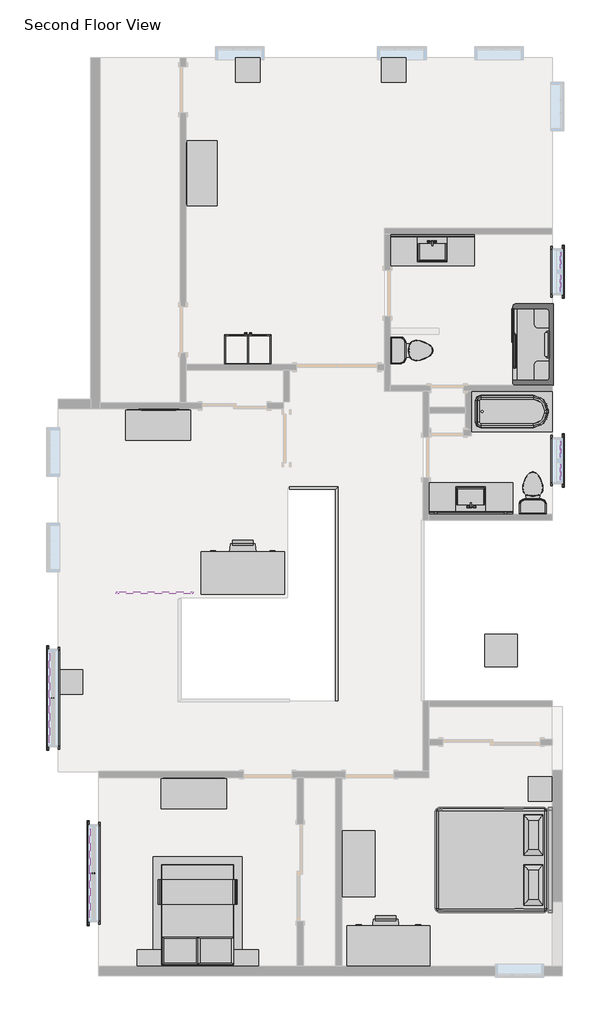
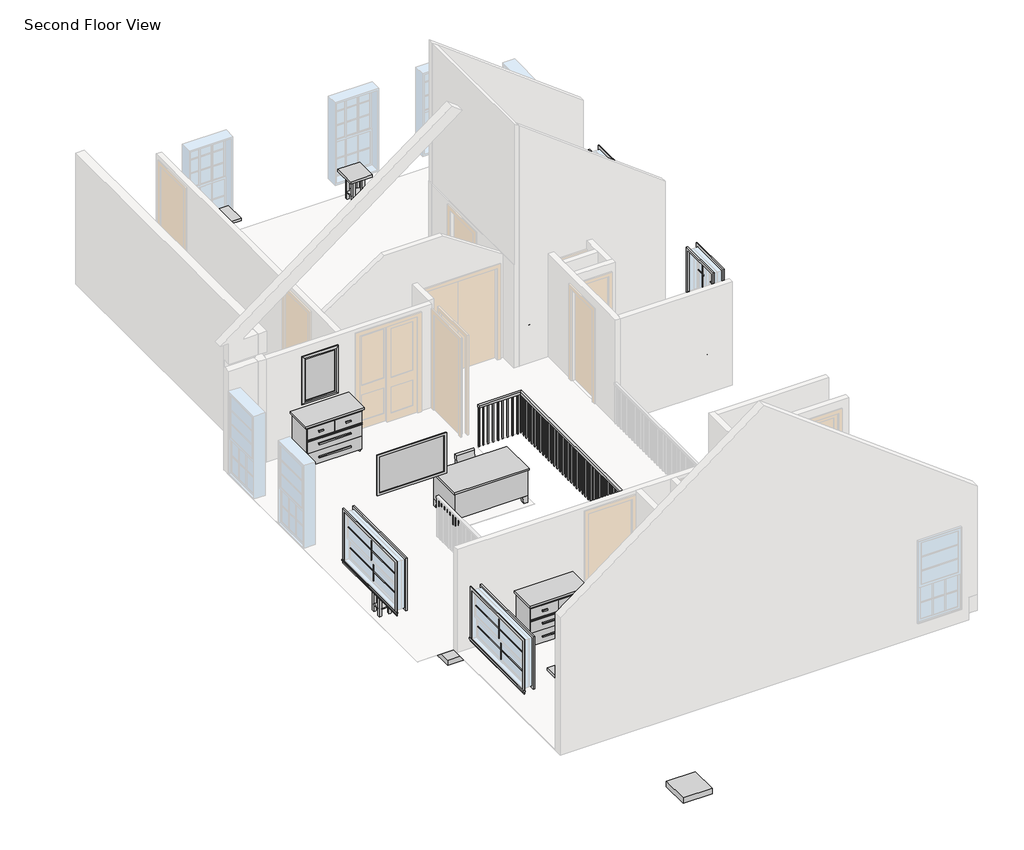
# One storey, part 3 of 3: 18 proxies, 17 furniture elements, 4 flow terminals, 4 light fixtures, 1 railing.
"""IFC4 building model written with IfcOpenShell, lengths in millimetres."""

from ifc_helpers import new_model, si_unit, frame, origin, place, context, project, spatial, polyline, outline, extrude, faceted_brep, transform, mapped, element, save
from components import bed_6467_bed_6467_19fe8acc, mirror_with_boarder_12900_mirror_with_boarder_12900_3f9398c7, muntin_pattern_2x2_muntin_pattern_2x2_8d1b6ffe, muntin_pattern_2x2_muntin_pattern_2x2_b3fe6957, muntin_pattern_2x2_muntin_pattern_2x2_3e0ecaf2, trim_window_exterior_flat_with_sill_e13d5450, trim_window_exterior_flat_with_sill_41619996, trim_window_interior_flat_picture_frame_689dbe4f, trim_window_interior_flat_picture_frame_51c85655, shower_7024_shower_7024_a4580cfa, toilet_domestic_3d_toilet_domestic_3d_f7549cf7, toilet_domestic_3d_toilet_domestic_3d_183bbd19, tub_rectangular_3d_tub_rectangular_3d_cbc2c449, furniture_831f9124, furniture_3_drawer_dresser_12522_3_drawer_dresser_12522_35cc0b9b, furniture_72_x_33x_19_4a222edf, bed_761_bed_761_0b78a544, chair_desk_chair_desk_ccc35c8f, furniture_013ab306, furniture_078ba9d8, furniture_097b63cf, sink_table_mirror_for_bathroom_10977_1_sink_table_mirror_for_8c8fbd03, downlight_rectangle_led_18w_square_e1bfda4b

model = new_model("IFC4")

# Units and contexts
model_context = context("Model", 3, world=origin())
ifc_project = project(units=[si_unit("LENGTHUNIT", "METRE", prefix="MILLI")], contexts=[model_context])

# Site, building, storey
site = spatial("IfcSite", under=ifc_project)
building = spatial("IfcBuilding", under=site)
storey = spatial("IfcBuildingStorey", under=building, Name="Second Floor View", Elevation=2590.8)

# Proxies
placement = place(None, origin())
bed_6467_bed_6467_shape = bed_6467_bed_6467_19fe8acc(model_context)
element("IfcBuildingElementProxy", 1, Name="BED_6467 : BED_6467", ObjectType="BED_6467 : BED_6467", at=placement, inside=storey, context=model_context, shape_type="MappedRepresentation", body=[
    mapped(bed_6467_bed_6467_shape, transform((-7956.0761249, -6164.7843358, 2597.15), x_axis=(-1.0, 0.0, 0.0), y_axis=(0.0, -1.0, 0.0), z_axis=(0.0, 0.0, 1.0))),
])
mirror_with_boarder_12900_mirror_with_boarder_12900_shape = mirror_with_boarder_12900_mirror_with_boarder_12900_3f9398c7(model_context)
element("IfcBuildingElementProxy", 2, Name="Mirror_with_Boarder_12900 : Mirror_with_Boarder_12900", ObjectType="Mirror_with_Boarder_12900 : Mirror_with_Boarder_12900", at=placement, inside=storey, context=model_context, shape_type="MappedRepresentation", body=[
    mapped(mirror_with_boarder_12900_mirror_with_boarder_12900_shape, transform((-8659.2230992, 3541.4922697, 2743.2), x_axis=(-1.0, 0.0, 0.0), y_axis=(0.0, -1.0, 0.0), z_axis=(0.0, 0.0, 1.0))),
])
muntin_pattern_2x2_muntin_pattern_2x2_shape = muntin_pattern_2x2_muntin_pattern_2x2_8d1b6ffe(model_context)
element("IfcBuildingElementProxy", 3, Name="Muntin Pattern_2x2 : Muntin Pattern_2x2", ObjectType="Muntin Pattern_2x2 : Muntin Pattern_2x2", at=placement, inside=storey, context=model_context, shape_type="MappedRepresentation", body=[
    mapped(muntin_pattern_2x2_muntin_pattern_2x2_shape, transform((-9935.5730992, -5240.5577303, 4060.825), x_axis=(0.0, 1.0, 0.0), y_axis=(-1.0, 0.0, 0.0), z_axis=(0.0, 0.0, 1.0))),
])
element("IfcBuildingElementProxy", 4, Name="Muntin Pattern_2x2 : Muntin Pattern_2x2", ObjectType="Muntin Pattern_2x2 : Muntin Pattern_2x2", at=placement, inside=storey, context=model_context, shape_type="MappedRepresentation", body=[
    mapped(muntin_pattern_2x2_muntin_pattern_2x2_shape, transform((-9891.1230992, -5240.5577303, 3581.4), x_axis=(0.0, 1.0, 0.0), y_axis=(-1.0, 0.0, 0.0), z_axis=(0.0, 0.0, 1.0))),
])
element("IfcBuildingElementProxy", 5, Name="Muntin Pattern_2x2 : Muntin Pattern_2x2", ObjectType="Muntin Pattern_2x2 : Muntin Pattern_2x2", at=placement, inside=storey, context=model_context, shape_type="MappedRepresentation", body=[
    mapped(muntin_pattern_2x2_muntin_pattern_2x2_shape, transform((-10697.5730992, -1949.6702303, 4060.825), x_axis=(0.0, 1.0, 0.0), y_axis=(-1.0, 0.0, 0.0), z_axis=(0.0, 0.0, 1.0))),
])
element("IfcBuildingElementProxy", 6, Name="Muntin Pattern_2x2 : Muntin Pattern_2x2", ObjectType="Muntin Pattern_2x2 : Muntin Pattern_2x2", at=placement, inside=storey, context=model_context, shape_type="MappedRepresentation", body=[
    mapped(muntin_pattern_2x2_muntin_pattern_2x2_shape, transform((-10653.1230992, -1949.6702303, 3581.4), x_axis=(0.0, 1.0, 0.0), y_axis=(-1.0, 0.0, 0.0), z_axis=(0.0, 0.0, 1.0))),
])
muntin_pattern_2x2_muntin_pattern_2x2_2_shape = muntin_pattern_2x2_muntin_pattern_2x2_b3fe6957(model_context)
element("IfcBuildingElementProxy", 7, Name="Muntin Pattern_2x2 : Muntin Pattern_2x2", ObjectType="Muntin Pattern_2x2 : Muntin Pattern_2x2", at=placement, inside=storey, context=model_context, shape_type="MappedRepresentation", body=[
    mapped(muntin_pattern_2x2_muntin_pattern_2x2_2_shape, transform((-1083.6730992, 6276.7547697, 3790.95), x_axis=(0.0, -1.0, 0.0), y_axis=(1.0, 0.0, 0.0), z_axis=(0.0, 0.0, 1.0))),
])
element("IfcBuildingElementProxy", 8, Name="Muntin Pattern_2x2 : Muntin Pattern_2x2", ObjectType="Muntin Pattern_2x2 : Muntin Pattern_2x2", at=placement, inside=storey, context=model_context, shape_type="MappedRepresentation", body=[
    mapped(muntin_pattern_2x2_muntin_pattern_2x2_2_shape, transform((-1083.6730992, 2727.1047697, 3790.95), x_axis=(0.0, -1.0, 0.0), y_axis=(1.0, 0.0, 0.0), z_axis=(0.0, 0.0, 1.0))),
])
muntin_pattern_2x2_muntin_pattern_2x2_3_shape = muntin_pattern_2x2_muntin_pattern_2x2_3e0ecaf2(model_context)
element("IfcBuildingElementProxy", 9, Name="Muntin Pattern_2x2 : Muntin Pattern_2x2", ObjectType="Muntin Pattern_2x2 : Muntin Pattern_2x2", at=placement, inside=storey, context=model_context, shape_type="MappedRepresentation", body=[
    mapped(muntin_pattern_2x2_muntin_pattern_2x2_3_shape, transform((-1083.6730992, 5848.1297697, 3790.95), x_axis=(0.0, 1.0, 0.0), y_axis=(-1.0, 0.0, 0.0), z_axis=(0.0, 0.0, 1.0))),
])
element("IfcBuildingElementProxy", 10, Name="Muntin Pattern_2x2 : Muntin Pattern_2x2", ObjectType="Muntin Pattern_2x2 : Muntin Pattern_2x2", at=placement, inside=storey, context=model_context, shape_type="MappedRepresentation", body=[
    mapped(muntin_pattern_2x2_muntin_pattern_2x2_3_shape, transform((-1083.6730992, 2298.4797697, 3790.95), x_axis=(0.0, 1.0, 0.0), y_axis=(-1.0, 0.0, 0.0), z_axis=(0.0, 0.0, 1.0))),
])
trim_window_exterior_flat_with_sill_shape = trim_window_exterior_flat_with_sill_e13d5450(model_context)
element("IfcBuildingElementProxy", 11, Name="Trim-Window-Exterior-Flat : with Sill", ObjectType="Trim-Window-Exterior-Flat : with Sill", at=placement, inside=storey, context=model_context, shape_type="MappedRepresentation", body=[
    mapped(trim_window_exterior_flat_with_sill_shape, transform((-9970.4980992, -5240.5577303, 4572.0), x_axis=(0.0, -1.0, 0.0), y_axis=(0.0, 0.0, 1.0), z_axis=(-1.0, 0.0, 0.0))),
])
element("IfcBuildingElementProxy", 12, Name="Trim-Window-Exterior-Flat : with Sill", ObjectType="Trim-Window-Exterior-Flat : with Sill", at=placement, inside=storey, context=model_context, shape_type="MappedRepresentation", body=[
    mapped(trim_window_exterior_flat_with_sill_shape, transform((-10732.4980992, -1949.6702303, 4572.0), x_axis=(0.0, -1.0, 0.0), y_axis=(0.0, 0.0, 1.0), z_axis=(-1.0, 0.0, 0.0))),
])
trim_window_exterior_flat_with_sill_2_shape = trim_window_exterior_flat_with_sill_41619996(model_context)
element("IfcBuildingElementProxy", 13, Name="Trim-Window-Exterior-Flat : with Sill", ObjectType="Trim-Window-Exterior-Flat : with Sill", at=placement, inside=storey, context=model_context, shape_type="MappedRepresentation", body=[
    mapped(trim_window_exterior_flat_with_sill_2_shape, transform((-1074.1480992, 6062.4422697, 4635.5), x_axis=(0.0, 1.0, 0.0), y_axis=(0.0, 0.0, 1.0), z_axis=(1.0, 0.0, 0.0))),
])
element("IfcBuildingElementProxy", 14, Name="Trim-Window-Exterior-Flat : with Sill", ObjectType="Trim-Window-Exterior-Flat : with Sill", at=placement, inside=storey, context=model_context, shape_type="MappedRepresentation", body=[
    mapped(trim_window_exterior_flat_with_sill_2_shape, transform((-1074.1480992, 2512.7922697, 4635.5), x_axis=(0.0, 1.0, 0.0), y_axis=(0.0, 0.0, 1.0), z_axis=(1.0, 0.0, 0.0))),
])
trim_window_interior_flat_picture_frame_shape = trim_window_interior_flat_picture_frame_689dbe4f(model_context)
element("IfcBuildingElementProxy", 15, Name="Trim-Window-Interior-Flat : Picture Frame", ObjectType="Trim-Window-Interior-Flat : Picture Frame", at=placement, inside=storey, context=model_context, shape_type="MappedRepresentation", body=[
    mapped(trim_window_interior_flat_picture_frame_shape, transform((-9789.5230992, -5240.5577303, 4572.0), x_axis=(0.0, 1.0, 0.0), y_axis=(0.0, 0.0, 1.0), z_axis=(1.0, 0.0, 0.0))),
])
element("IfcBuildingElementProxy", 16, Name="Trim-Window-Interior-Flat : Picture Frame", ObjectType="Trim-Window-Interior-Flat : Picture Frame", at=placement, inside=storey, context=model_context, shape_type="MappedRepresentation", body=[
    mapped(trim_window_interior_flat_picture_frame_shape, transform((-10551.5230992, -1949.6702303, 4572.0), x_axis=(0.0, 1.0, 0.0), y_axis=(0.0, 0.0, 1.0), z_axis=(1.0, 0.0, 0.0))),
])
trim_window_interior_flat_picture_frame_2_shape = trim_window_interior_flat_picture_frame_51c85655(model_context)
element("IfcBuildingElementProxy", 17, Name="Trim-Window-Interior-Flat : Picture Frame", ObjectType="Trim-Window-Interior-Flat : Picture Frame", at=placement, inside=storey, context=model_context, shape_type="MappedRepresentation", body=[
    mapped(trim_window_interior_flat_picture_frame_2_shape, transform((-1255.1230992, 6062.4422697, 4635.5), x_axis=(0.0, -1.0, 0.0), y_axis=(0.0, 0.0, 1.0), z_axis=(-1.0, 0.0, 0.0))),
])
element("IfcBuildingElementProxy", 18, Name="Trim-Window-Interior-Flat : Picture Frame", ObjectType="Trim-Window-Interior-Flat : Picture Frame", at=placement, inside=storey, context=model_context, shape_type="MappedRepresentation", body=[
    mapped(trim_window_interior_flat_picture_frame_2_shape, transform((-1255.1230992, 2512.7922697, 4635.5), x_axis=(0.0, -1.0, 0.0), y_axis=(0.0, 0.0, 1.0), z_axis=(-1.0, 0.0, 0.0))),
])

# Flow terminals
shower_7024_shower_7024_shape = shower_7024_shower_7024_a4580cfa(model_context)
element("IfcFlowTerminal", 19, ObjectType="Shower_7024 : Shower_7024", at=placement, inside=storey, context=model_context, shape_type="MappedRepresentation", body=[
    mapped(shower_7024_shower_7024_shape, transform((-1164.6355992, 4732.6987154, 2590.8), x_axis=(0.0, -1.0, 0.0), y_axis=(1.0, 0.0, 0.0), z_axis=(0.0, 0.0, 1.0))),
])
toilet_domestic_3d_toilet_domestic_3d_shape = toilet_domestic_3d_toilet_domestic_3d_f7549cf7(model_context)
toilet_domestic_3d_toilet_domestic_3d_2_shape = toilet_domestic_3d_toilet_domestic_3d_183bbd19(model_context)
element("IfcFlowTerminal", 20, ObjectType="Toilet-Domestic-3D : Toilet-Domestic-3D", at=placement, inside=storey, context=model_context, shape_type="MappedRepresentation", body=[
    mapped(toilet_domestic_3d_toilet_domestic_3d_shape, transform((-1623.4230992, 1997.838297, 2590.8), x_axis=(-1.0, 0.0, 0.0), y_axis=(0.0, -1.0, 0.0), z_axis=(0.0, 0.0, 1.0))),
    mapped(toilet_domestic_3d_toilet_domestic_3d_2_shape, transform((-1623.4230992, 1997.838297, 2590.8), x_axis=(-1.0, 0.0, 0.0), y_axis=(0.0, -1.0, 0.0), z_axis=(0.0, 0.0, 1.0))),
])
element("IfcFlowTerminal", 21, ObjectType="Toilet-Domestic-3D : Toilet-Domestic-3D", at=placement, inside=storey, context=model_context, shape_type="MappedRepresentation", body=[
    mapped(toilet_domestic_3d_toilet_domestic_3d_shape, transform((-3808.4270719, 4582.8922697, 2597.15), x_axis=(0.0, 1.0, 0.0), y_axis=(-1.0, 0.0, 0.0), z_axis=(0.0, 0.0, 1.0))),
    mapped(toilet_domestic_3d_toilet_domestic_3d_2_shape, transform((-3808.4270719, 4582.8922697, 2597.15), x_axis=(0.0, 1.0, 0.0), y_axis=(-1.0, 0.0, 0.0), z_axis=(0.0, 0.0, 1.0))),
])
tub_rectangular_3d_tub_rectangular_3d_shape = tub_rectangular_3d_tub_rectangular_3d_cbc2c449(model_context)
element("IfcFlowTerminal", 22, ObjectType="Tub-Rectangular-3D : Tub-Rectangular-3D", at=placement, inside=storey, context=model_context, shape_type="MappedRepresentation", body=[
    mapped(tub_rectangular_3d_tub_rectangular_3d_shape, transform((-1668.5201305, 3874.8672697, 2590.8), x_axis=(1.0, 0.0, 0.0), y_axis=(0.0, 1.0, 0.0), z_axis=(0.0, 0.0, 1.0))),
])

# Furniture
furniture_shape = furniture_831f9124(model_context)
element("IfcFurniture", 23, ObjectType="Painting_10066 : Painting_10066", at=placement, inside=storey, context=model_context, shape_type="MappedRepresentation", body=[
    mapped(furniture_shape, transform((-9456.4105992, 45.8172697, 2946.4), x_axis=(1.0, 0.0, 0.0), y_axis=(0.0, 1.0, 0.0), z_axis=(0.0, 0.0, 1.0))),
])
furniture_3_drawer_dresser_12522_3_drawer_dresser_12522_shape = furniture_3_drawer_dresser_12522_3_drawer_dresser_12522_35cc0b9b(model_context)
element("IfcFurniture", 24, ObjectType="3_Drawer_Dresser_12522 : 3_Drawer_Dresser_12522", at=placement, inside=storey, context=model_context, shape_type="MappedRepresentation", body=[
    mapped(furniture_3_drawer_dresser_12522_3_drawer_dresser_12522_shape, transform((-8570.3230992, -3443.5077303, 2597.15), x_axis=(1.0, 0.0, 0.0), y_axis=(0.0, 1.0, 0.0), z_axis=(0.0, 0.0, 1.0))),
])
element("IfcFurniture", 25, ObjectType="3_Drawer_Dresser_12522 : 3_Drawer_Dresser_12522", at=placement, inside=storey, context=model_context, shape_type="MappedRepresentation", body=[
    mapped(furniture_3_drawer_dresser_12522_3_drawer_dresser_12522_shape, transform((-9243.4230992, 3484.3422697, 2597.15), x_axis=(1.0, 0.0, 0.0), y_axis=(0.0, 1.0, 0.0), z_axis=(0.0, 0.0, 1.0))),
])
element("IfcFurniture", 26, ObjectType="3_Drawer_Dresser_12522 : 3_Drawer_Dresser_12522", at=placement, inside=storey, context=model_context, shape_type="MappedRepresentation", body=[
    mapped(furniture_3_drawer_dresser_12522_3_drawer_dresser_12522_shape, transform((-8144.8730992, 7338.7922697, 2597.15), x_axis=(0.0, 1.0, 0.0), y_axis=(-1.0, 0.0, 0.0), z_axis=(0.0, 0.0, 1.0))),
])
furniture_72_x_33x_19_shape = furniture_72_x_33x_19_4a222edf(model_context)
element("IfcFurniture", 27, ObjectType="Simple_Armoire_7820 : 72 x 33x 19", at=placement, inside=storey, context=model_context, shape_type="MappedRepresentation", body=[
    mapped(furniture_72_x_33x_19_shape, transform((-6982.9502393, 4322.5422697, 2597.15), x_axis=(-1.0, 0.0, 0.0), y_axis=(0.0, -1.0, 0.0), z_axis=(0.0, 0.0, 1.0))),
])
bed_761_bed_761_shape = bed_761_bed_761_0b78a544(model_context)
element("IfcFurniture", 28, ObjectType="Bed_761 : Bed_761", at=placement, inside=storey, context=model_context, shape_type="MappedRepresentation", body=[
    mapped(bed_761_bed_761_shape, transform((-1255.1230992, -4003.8952303, 2597.15), x_axis=(-1.0, 0.0, 0.0), y_axis=(0.0, -1.0, 0.0), z_axis=(0.0, 0.0, 1.0))),
])
chair_desk_chair_desk_shape = chair_desk_chair_desk_ccc35c8f(model_context)
element("IfcFurniture", 29, ObjectType="Chair-Desk : Chair-Desk", at=placement, inside=storey, context=model_context, shape_type="MappedRepresentation", body=[
    mapped(chair_desk_chair_desk_shape, transform((-7078.0902876, 949.5880024, 2597.15), x_axis=(-0.9999999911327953, -0.00013317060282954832, 0.0), y_axis=(0.00013317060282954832, -0.9999999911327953, 0.0), z_axis=(0.0, 0.0, 1.0))),
])
element("IfcFurniture", 30, ObjectType="Chair-Desk : Chair-Desk", at=placement, inside=storey, context=model_context, shape_type="MappedRepresentation", body=[
    mapped(chair_desk_chair_desk_shape, transform((-4392.293462, -6107.8668982, 2597.15), x_axis=(-0.9999999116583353, -0.00042033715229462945, 0.0), y_axis=(0.00042033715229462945, -0.9999999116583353, 0.0), z_axis=(0.0, 0.0, 1.0))),
])
furniture_2_shape = furniture_013ab306(model_context)
element("IfcFurniture", 31, ObjectType="Desk : 60\" x 30\"", at=placement, inside=storey, context=model_context, shape_type="MappedRepresentation", body=[
    mapped(furniture_2_shape, transform((-6316.0730992, 782.4172697, 2597.15), x_axis=(-1.0, 0.0, 0.0), y_axis=(0.0, -1.0, 0.0), z_axis=(0.0, 0.0, 1.0))),
])
element("IfcFurniture", 32, ObjectType="Desk : 60\" x 30\"", at=placement, inside=storey, context=model_context, shape_type="MappedRepresentation", body=[
    mapped(furniture_2_shape, transform((-3579.2230992, -6243.8577303, 2597.15), x_axis=(-1.0, 0.0, 0.0), y_axis=(0.0, -1.0, 0.0), z_axis=(0.0, 0.0, 1.0))),
])
furniture_3_shape = furniture_078ba9d8(model_context)
element("IfcFurniture", 33, ObjectType="Dresser : 48\" x 60\" x 24\" 2", at=placement, inside=storey, context=model_context, shape_type="MappedRepresentation", body=[
    mapped(furniture_3_shape, transform((-5275.8860533, -4793.5644705, 2597.15), x_axis=(0.0, 1.0, 0.0), y_axis=(-1.0, 0.0, 0.0), z_axis=(0.0, 0.0, 1.0))),
])
furniture_4_shape = furniture_097b63cf(model_context)
element("IfcFurniture", 34, ObjectType="Table-Night Stand : 18\" x 18\" x 24\"", at=placement, inside=storey, context=model_context, shape_type="MappedRepresentation", body=[
    mapped(furniture_4_shape, transform((-1716.0567295, -3884.8327303, 2597.15), x_axis=(1.0, 0.0, 0.0), y_axis=(0.0, 1.0, 0.0), z_axis=(0.0, 0.0, 1.0))),
])
element("IfcFurniture", 35, ObjectType="Table-Night Stand : 18\" x 18\" x 24\"", at=placement, inside=storey, context=model_context, shape_type="MappedRepresentation", body=[
    mapped(furniture_4_shape, transform((-7215.1567295, 9624.7922697, 2597.15), x_axis=(1.0, 0.0, 0.0), y_axis=(0.0, 1.0, 0.0), z_axis=(0.0, 0.0, 1.0))),
])
element("IfcFurniture", 36, ObjectType="Table-Night Stand : 18\" x 18\" x 24\"", at=placement, inside=storey, context=model_context, shape_type="MappedRepresentation", body=[
    mapped(furniture_4_shape, transform((-4471.9567295, 9624.7922697, 2597.15), x_axis=(1.0, 0.0, 0.0), y_axis=(0.0, 1.0, 0.0), z_axis=(0.0, 0.0, 1.0))),
])
element("IfcFurniture", 37, ObjectType="Table-Night Stand : 18\" x 18\" x 24\"", at=placement, inside=storey, context=model_context, shape_type="MappedRepresentation", body=[
    mapped(furniture_4_shape, transform((-10555.2567295, -1873.4702303, 2597.15), x_axis=(1.0, 0.0, 0.0), y_axis=(0.0, 1.0, 0.0), z_axis=(0.0, 0.0, 1.0))),
])
sink_table_mirror_for_bathroom_10977_1_sink_table_mirror_for_shape = sink_table_mirror_for_bathroom_10977_1_sink_table_mirror_for_8c8fbd03(model_context)
element("IfcFurniture", 38, ObjectType="sink___table___mirror_for_bathroom_10977 (1) : sink___table___mirror_for_bathroom_10977 (1)", at=placement, inside=storey, context=model_context, shape_type="MappedRepresentation", body=[
    mapped(sink_table_mirror_for_bathroom_10977_1_sink_table_mirror_for_shape, transform((-2789.2230992, 1503.1422697, 2397.15), x_axis=(1.0, 0.0, 0.0), y_axis=(0.0, 1.0, 0.0), z_axis=(0.0, 0.0, 1.0))),
])
element("IfcFurniture", 39, ObjectType="sink___table___mirror_for_bathroom_10977 (1) : sink___table___mirror_for_bathroom_10977 (1)", at=placement, inside=storey, context=model_context, shape_type="MappedRepresentation", body=[
    mapped(sink_table_mirror_for_bathroom_10977_1_sink_table_mirror_for_shape, transform((-3515.7230992, 6767.2922697, 2597.15), x_axis=(-1.0, 0.0, 0.0), y_axis=(0.0, -1.0, 0.0), z_axis=(0.0, 0.0, 1.0))),
])

# Light fixtures
downlight_rectangle_led_18w_square_shape = downlight_rectangle_led_18w_square_e1bfda4b(model_context)
element("IfcLightFixture", 40, ObjectType="Downlight - Rectangle - LED : 18W Square", at=placement, inside=storey, context=model_context, shape_type="MappedRepresentation", body=[
    mapped(downlight_rectangle_led_18w_square_shape, transform((-2220.3230992, -1057.4952303, -254.0), x_axis=(1.0, 0.0, 0.0), y_axis=(0.0, -1.0, 0.0), z_axis=(0.0, 0.0, -1.0))),
])
element("IfcLightFixture", 41, ObjectType="Downlight - Rectangle - LED : 18W Square", at=placement, inside=storey, context=model_context, shape_type="MappedRepresentation", body=[
    mapped(downlight_rectangle_led_18w_square_shape, transform((-6201.7730992, -5624.7327303, -254.0), x_axis=(1.0, 0.0, 0.0), y_axis=(0.0, -1.0, 0.0), z_axis=(0.0, 0.0, -1.0))),
])
element("IfcLightFixture", 42, ObjectType="Downlight - Rectangle - LED : 18W Square", at=placement, inside=storey, context=model_context, shape_type="MappedRepresentation", body=[
    mapped(downlight_rectangle_led_18w_square_shape, transform((-7713.0730992, 268.0672697, -254.0), x_axis=(1.0, 0.0, 0.0), y_axis=(0.0, -1.0, 0.0), z_axis=(0.0, 0.0, -1.0))),
])
element("IfcLightFixture", 43, ObjectType="Downlight - Rectangle - LED : 18W Square", at=placement, inside=storey, context=model_context, shape_type="MappedRepresentation", body=[
    mapped(downlight_rectangle_led_18w_square_shape, transform((-5312.7730992, 7053.0422697, 2438.4), x_axis=(1.0, 0.0, 0.0), y_axis=(0.0, -1.0, 0.0), z_axis=(0.0, 0.0, -1.0))),
])

# Railing
element("IfcRailing", 44, ObjectType="Handrail - Rectangular", at=placement, inside=storey, context=model_context, shape_type="SolidModel", body=[
    faceted_brep([(-6201.7730992, 2025.4297697, 3505.2), (-6201.7730992, 2025.4297697, 3454.4), (-6201.7730992, 1974.6297697, 3454.4), (-6201.7730992, 1974.6297697, 3505.2), (-5287.3730992, 2025.4297697, 3505.2), (-5287.3730992, 2025.4297697, 3454.4), (-5338.1730992, 1974.6297697, 3454.4), (-5338.1730992, 1974.6297697, 3505.2), (-5287.3730992, -1995.7077303, 3505.2), (-5338.1730992, -1995.7077303, 3505.2), (-5338.1730992, -1995.7077303, 3454.4), (-5287.3730992, -1995.7077303, 3454.4)], [[[0, 1, 2, 3]], [[1, 0, 4, 5]], [[2, 1, 5, 6]], [[3, 2, 6, 7]], [[0, 3, 7, 4]], [[8, 9, 10, 11]], [[5, 4, 8, 11]], [[6, 5, 11, 10]], [[7, 6, 10, 9]], [[4, 7, 9, 8]]]),
    extrude(outline(polyline([(-5322.2980992, -1952.8452303), (-5303.2480992, -1952.8452303), (-5303.2480992, -1971.8952303), (-5322.2980992, -1971.8952303), (-5322.2980992, -1952.8452303)])), frame((0.0, 0.0, 2590.8), z_axis=(0.0, 0.0, 1.0), x_axis=(1.0, 0.0, 0.0)), (0.0, 0.0, 1.0), 863.6),
    extrude(outline(polyline([(-5322.2980992, -1851.2452303), (-5303.2480992, -1851.2452303), (-5303.2480992, -1870.2952303), (-5322.2980992, -1870.2952303), (-5322.2980992, -1851.2452303)])), frame((0.0, 0.0, 2590.8), z_axis=(0.0, 0.0, 1.0), x_axis=(1.0, 0.0, 0.0)), (0.0, 0.0, 1.0), 863.6),
    extrude(outline(polyline([(-5322.2980992, -1749.6452303), (-5303.2480992, -1749.6452303), (-5303.2480992, -1768.6952303), (-5322.2980992, -1768.6952303), (-5322.2980992, -1749.6452303)])), frame((0.0, 0.0, 2590.8), z_axis=(0.0, 0.0, 1.0), x_axis=(1.0, 0.0, 0.0)), (0.0, 0.0, 1.0), 863.6),
    extrude(outline(polyline([(-5322.2980992, -1648.0452303), (-5303.2480992, -1648.0452303), (-5303.2480992, -1667.0952303), (-5322.2980992, -1667.0952303), (-5322.2980992, -1648.0452303)])), frame((0.0, 0.0, 2590.8), z_axis=(0.0, 0.0, 1.0), x_axis=(1.0, 0.0, 0.0)), (0.0, 0.0, 1.0), 863.6),
    extrude(outline(polyline([(-5322.2980992, -1546.4452303), (-5303.2480992, -1546.4452303), (-5303.2480992, -1565.4952303), (-5322.2980992, -1565.4952303), (-5322.2980992, -1546.4452303)])), frame((0.0, 0.0, 2590.8), z_axis=(0.0, 0.0, 1.0), x_axis=(1.0, 0.0, 0.0)), (0.0, 0.0, 1.0), 863.6),
    extrude(outline(polyline([(-5322.2980992, -1444.8452303), (-5303.2480992, -1444.8452303), (-5303.2480992, -1463.8952303), (-5322.2980992, -1463.8952303), (-5322.2980992, -1444.8452303)])), frame((0.0, 0.0, 2590.8), z_axis=(0.0, 0.0, 1.0), x_axis=(1.0, 0.0, 0.0)), (0.0, 0.0, 1.0), 863.6),
    extrude(outline(polyline([(-5322.2980992, -1343.2452303), (-5303.2480992, -1343.2452303), (-5303.2480992, -1362.2952303), (-5322.2980992, -1362.2952303), (-5322.2980992, -1343.2452303)])), frame((0.0, 0.0, 2590.8), z_axis=(0.0, 0.0, 1.0), x_axis=(1.0, 0.0, 0.0)), (0.0, 0.0, 1.0), 863.6),
    extrude(outline(polyline([(-5322.2980992, -1241.6452303), (-5303.2480992, -1241.6452303), (-5303.2480992, -1260.6952303), (-5322.2980992, -1260.6952303), (-5322.2980992, -1241.6452303)])), frame((0.0, 0.0, 2590.8), z_axis=(0.0, 0.0, 1.0), x_axis=(1.0, 0.0, 0.0)), (0.0, 0.0, 1.0), 863.6),
    extrude(outline(polyline([(-5322.2980992, -1140.0452303), (-5303.2480992, -1140.0452303), (-5303.2480992, -1159.0952303), (-5322.2980992, -1159.0952303), (-5322.2980992, -1140.0452303)])), frame((0.0, 0.0, 2590.8), z_axis=(0.0, 0.0, 1.0), x_axis=(1.0, 0.0, 0.0)), (0.0, 0.0, 1.0), 863.6),
    extrude(outline(polyline([(-5322.2980992, -1038.4452303), (-5303.2480992, -1038.4452303), (-5303.2480992, -1057.4952303), (-5322.2980992, -1057.4952303), (-5322.2980992, -1038.4452303)])), frame((0.0, 0.0, 2590.8), z_axis=(0.0, 0.0, 1.0), x_axis=(1.0, 0.0, 0.0)), (0.0, 0.0, 1.0), 863.6),
    extrude(outline(polyline([(-5322.2980992, -936.8452303), (-5303.2480992, -936.8452303), (-5303.2480992, -955.8952303), (-5322.2980992, -955.8952303), (-5322.2980992, -936.8452303)])), frame((0.0, 0.0, 2590.8), z_axis=(0.0, 0.0, 1.0), x_axis=(1.0, 0.0, 0.0)), (0.0, 0.0, 1.0), 863.6),
    extrude(outline(polyline([(-5322.2980992, -835.2452303), (-5303.2480992, -835.2452303), (-5303.2480992, -854.2952303), (-5322.2980992, -854.2952303), (-5322.2980992, -835.2452303)])), frame((0.0, 0.0, 2590.8), z_axis=(0.0, 0.0, 1.0), x_axis=(1.0, 0.0, 0.0)), (0.0, 0.0, 1.0), 863.6),
    extrude(outline(polyline([(-5322.2980992, -733.6452303), (-5303.2480992, -733.6452303), (-5303.2480992, -752.6952303), (-5322.2980992, -752.6952303), (-5322.2980992, -733.6452303)])), frame((0.0, 0.0, 2590.8), z_axis=(0.0, 0.0, 1.0), x_axis=(1.0, 0.0, 0.0)), (0.0, 0.0, 1.0), 863.6),
    extrude(outline(polyline([(-5322.2980992, -632.0452303), (-5303.2480992, -632.0452303), (-5303.2480992, -651.0952303), (-5322.2980992, -651.0952303), (-5322.2980992, -632.0452303)])), frame((0.0, 0.0, 2590.8), z_axis=(0.0, 0.0, 1.0), x_axis=(1.0, 0.0, 0.0)), (0.0, 0.0, 1.0), 863.6),
    extrude(outline(polyline([(-5322.2980992, -530.4452303), (-5303.2480992, -530.4452303), (-5303.2480992, -549.4952303), (-5322.2980992, -549.4952303), (-5322.2980992, -530.4452303)])), frame((0.0, 0.0, 2590.8), z_axis=(0.0, 0.0, 1.0), x_axis=(1.0, 0.0, 0.0)), (0.0, 0.0, 1.0), 863.6),
    extrude(outline(polyline([(-5322.2980992, -428.8452303), (-5303.2480992, -428.8452303), (-5303.2480992, -447.8952303), (-5322.2980992, -447.8952303), (-5322.2980992, -428.8452303)])), frame((0.0, 0.0, 2590.8), z_axis=(0.0, 0.0, 1.0), x_axis=(1.0, 0.0, 0.0)), (0.0, 0.0, 1.0), 863.6),
    extrude(outline(polyline([(-5322.2980992, -327.2452303), (-5303.2480992, -327.2452303), (-5303.2480992, -346.2952303), (-5322.2980992, -346.2952303), (-5322.2980992, -327.2452303)])), frame((0.0, 0.0, 2590.8), z_axis=(0.0, 0.0, 1.0), x_axis=(1.0, 0.0, 0.0)), (0.0, 0.0, 1.0), 863.6),
    extrude(outline(polyline([(-5322.2980992, -225.6452303), (-5303.2480992, -225.6452303), (-5303.2480992, -244.6952303), (-5322.2980992, -244.6952303), (-5322.2980992, -225.6452303)])), frame((0.0, 0.0, 2590.8), z_axis=(0.0, 0.0, 1.0), x_axis=(1.0, 0.0, 0.0)), (0.0, 0.0, 1.0), 863.6),
    extrude(outline(polyline([(-5322.2980992, -124.0452303), (-5303.2480992, -124.0452303), (-5303.2480992, -143.0952303), (-5322.2980992, -143.0952303), (-5322.2980992, -124.0452303)])), frame((0.0, 0.0, 2590.8), z_axis=(0.0, 0.0, 1.0), x_axis=(1.0, 0.0, 0.0)), (0.0, 0.0, 1.0), 863.6),
    extrude(outline(polyline([(-5322.2980992, -22.4452303), (-5303.2480992, -22.4452303), (-5303.2480992, -41.4952303), (-5322.2980992, -41.4952303), (-5322.2980992, -22.4452303)])), frame((0.0, 0.0, 2590.8), z_axis=(0.0, 0.0, 1.0), x_axis=(1.0, 0.0, 0.0)), (0.0, 0.0, 1.0), 863.6),
    extrude(outline(polyline([(-5322.2980992, 79.1547697), (-5303.2480992, 79.1547697), (-5303.2480992, 60.1047697), (-5322.2980992, 60.1047697), (-5322.2980992, 79.1547697)])), frame((0.0, 0.0, 2590.8), z_axis=(0.0, 0.0, 1.0), x_axis=(1.0, 0.0, 0.0)), (0.0, 0.0, 1.0), 863.6),
    extrude(outline(polyline([(-5322.2980992, 180.7547697), (-5303.2480992, 180.7547697), (-5303.2480992, 161.7047697), (-5322.2980992, 161.7047697), (-5322.2980992, 180.7547697)])), frame((0.0, 0.0, 2590.8), z_axis=(0.0, 0.0, 1.0), x_axis=(1.0, 0.0, 0.0)), (0.0, 0.0, 1.0), 863.6),
    extrude(outline(polyline([(-5322.2980992, 282.3547697), (-5303.2480992, 282.3547697), (-5303.2480992, 263.3047697), (-5322.2980992, 263.3047697), (-5322.2980992, 282.3547697)])), frame((0.0, 0.0, 2590.8), z_axis=(0.0, 0.0, 1.0), x_axis=(1.0, 0.0, 0.0)), (0.0, 0.0, 1.0), 863.6),
    extrude(outline(polyline([(-5322.2980992, 383.9547697), (-5303.2480992, 383.9547697), (-5303.2480992, 364.9047697), (-5322.2980992, 364.9047697), (-5322.2980992, 383.9547697)])), frame((0.0, 0.0, 2590.8), z_axis=(0.0, 0.0, 1.0), x_axis=(1.0, 0.0, 0.0)), (0.0, 0.0, 1.0), 863.6),
    extrude(outline(polyline([(-5322.2980992, 485.5547697), (-5303.2480992, 485.5547697), (-5303.2480992, 466.5047697), (-5322.2980992, 466.5047697), (-5322.2980992, 485.5547697)])), frame((0.0, 0.0, 2590.8), z_axis=(0.0, 0.0, 1.0), x_axis=(1.0, 0.0, 0.0)), (0.0, 0.0, 1.0), 863.6),
    extrude(outline(polyline([(-5322.2980992, 587.1547697), (-5303.2480992, 587.1547697), (-5303.2480992, 568.1047697), (-5322.2980992, 568.1047697), (-5322.2980992, 587.1547697)])), frame((0.0, 0.0, 2590.8), z_axis=(0.0, 0.0, 1.0), x_axis=(1.0, 0.0, 0.0)), (0.0, 0.0, 1.0), 863.6),
    extrude(outline(polyline([(-5322.2980992, 688.7547697), (-5303.2480992, 688.7547697), (-5303.2480992, 669.7047697), (-5322.2980992, 669.7047697), (-5322.2980992, 688.7547697)])), frame((0.0, 0.0, 2590.8), z_axis=(0.0, 0.0, 1.0), x_axis=(1.0, 0.0, 0.0)), (0.0, 0.0, 1.0), 863.6),
    extrude(outline(polyline([(-5322.2980992, 790.3547697), (-5303.2480992, 790.3547697), (-5303.2480992, 771.3047697), (-5322.2980992, 771.3047697), (-5322.2980992, 790.3547697)])), frame((0.0, 0.0, 2590.8), z_axis=(0.0, 0.0, 1.0), x_axis=(1.0, 0.0, 0.0)), (0.0, 0.0, 1.0), 863.6),
    extrude(outline(polyline([(-5322.2980992, 891.9547697), (-5303.2480992, 891.9547697), (-5303.2480992, 872.9047697), (-5322.2980992, 872.9047697), (-5322.2980992, 891.9547697)])), frame((0.0, 0.0, 2590.8), z_axis=(0.0, 0.0, 1.0), x_axis=(1.0, 0.0, 0.0)), (0.0, 0.0, 1.0), 863.6),
    extrude(outline(polyline([(-5322.2980992, 993.5547697), (-5303.2480992, 993.5547697), (-5303.2480992, 974.5047697), (-5322.2980992, 974.5047697), (-5322.2980992, 993.5547697)])), frame((0.0, 0.0, 2590.8), z_axis=(0.0, 0.0, 1.0), x_axis=(1.0, 0.0, 0.0)), (0.0, 0.0, 1.0), 863.6),
    extrude(outline(polyline([(-5322.2980992, 1095.1547697), (-5303.2480992, 1095.1547697), (-5303.2480992, 1076.1047697), (-5322.2980992, 1076.1047697), (-5322.2980992, 1095.1547697)])), frame((0.0, 0.0, 2590.8), z_axis=(0.0, 0.0, 1.0), x_axis=(1.0, 0.0, 0.0)), (0.0, 0.0, 1.0), 863.6),
    extrude(outline(polyline([(-5322.2980992, 1196.7547697), (-5303.2480992, 1196.7547697), (-5303.2480992, 1177.7047697), (-5322.2980992, 1177.7047697), (-5322.2980992, 1196.7547697)])), frame((0.0, 0.0, 2590.8), z_axis=(0.0, 0.0, 1.0), x_axis=(1.0, 0.0, 0.0)), (0.0, 0.0, 1.0), 863.6),
    extrude(outline(polyline([(-5322.2980992, 1298.3547697), (-5303.2480992, 1298.3547697), (-5303.2480992, 1279.3047697), (-5322.2980992, 1279.3047697), (-5322.2980992, 1298.3547697)])), frame((0.0, 0.0, 2590.8), z_axis=(0.0, 0.0, 1.0), x_axis=(1.0, 0.0, 0.0)), (0.0, 0.0, 1.0), 863.6),
    extrude(outline(polyline([(-5322.2980992, 1399.9547697), (-5303.2480992, 1399.9547697), (-5303.2480992, 1380.9047697), (-5322.2980992, 1380.9047697), (-5322.2980992, 1399.9547697)])), frame((0.0, 0.0, 2590.8), z_axis=(0.0, 0.0, 1.0), x_axis=(1.0, 0.0, 0.0)), (0.0, 0.0, 1.0), 863.6),
    extrude(outline(polyline([(-5322.2980992, 1501.5547697), (-5303.2480992, 1501.5547697), (-5303.2480992, 1482.5047697), (-5322.2980992, 1482.5047697), (-5322.2980992, 1501.5547697)])), frame((0.0, 0.0, 2590.8), z_axis=(0.0, 0.0, 1.0), x_axis=(1.0, 0.0, 0.0)), (0.0, 0.0, 1.0), 863.6),
    extrude(outline(polyline([(-5322.2980992, 1603.1547697), (-5303.2480992, 1603.1547697), (-5303.2480992, 1584.1047697), (-5322.2980992, 1584.1047697), (-5322.2980992, 1603.1547697)])), frame((0.0, 0.0, 2590.8), z_axis=(0.0, 0.0, 1.0), x_axis=(1.0, 0.0, 0.0)), (0.0, 0.0, 1.0), 863.6),
    extrude(outline(polyline([(-5322.2980992, 1704.7547697), (-5303.2480992, 1704.7547697), (-5303.2480992, 1685.7047697), (-5322.2980992, 1685.7047697), (-5322.2980992, 1704.7547697)])), frame((0.0, 0.0, 2590.8), z_axis=(0.0, 0.0, 1.0), x_axis=(1.0, 0.0, 0.0)), (0.0, 0.0, 1.0), 863.6),
    extrude(outline(polyline([(-5322.2980992, 1806.3547697), (-5303.2480992, 1806.3547697), (-5303.2480992, 1787.3047697), (-5322.2980992, 1787.3047697), (-5322.2980992, 1806.3547697)])), frame((0.0, 0.0, 2590.8), z_axis=(0.0, 0.0, 1.0), x_axis=(1.0, 0.0, 0.0)), (0.0, 0.0, 1.0), 863.6),
    extrude(outline(polyline([(-5322.2980992, 1907.9547697), (-5303.2480992, 1907.9547697), (-5303.2480992, 1888.9047697), (-5322.2980992, 1888.9047697), (-5322.2980992, 1907.9547697)])), frame((0.0, 0.0, 2590.8), z_axis=(0.0, 0.0, 1.0), x_axis=(1.0, 0.0, 0.0)), (0.0, 0.0, 1.0), 863.6),
    extrude(outline(polyline([(-5398.4980992, 1990.5047697), (-5398.4980992, 2009.5547697), (-5379.4480992, 2009.5547697), (-5379.4480992, 1990.5047697), (-5398.4980992, 1990.5047697)])), frame((0.0, 0.0, 2590.8), z_axis=(0.0, 0.0, 1.0), x_axis=(1.0, 0.0, 0.0)), (0.0, 0.0, 1.0), 863.6),
    extrude(outline(polyline([(-5500.0980992, 1990.5047697), (-5500.0980992, 2009.5547697), (-5481.0480992, 2009.5547697), (-5481.0480992, 1990.5047697), (-5500.0980992, 1990.5047697)])), frame((0.0, 0.0, 2590.8), z_axis=(0.0, 0.0, 1.0), x_axis=(1.0, 0.0, 0.0)), (0.0, 0.0, 1.0), 863.6),
    extrude(outline(polyline([(-5601.6980992, 1990.5047697), (-5601.6980992, 2009.5547697), (-5582.6480992, 2009.5547697), (-5582.6480992, 1990.5047697), (-5601.6980992, 1990.5047697)])), frame((0.0, 0.0, 2590.8), z_axis=(0.0, 0.0, 1.0), x_axis=(1.0, 0.0, 0.0)), (0.0, 0.0, 1.0), 863.6),
    extrude(outline(polyline([(-5703.2980992, 1990.5047697), (-5703.2980992, 2009.5547697), (-5684.2480992, 2009.5547697), (-5684.2480992, 1990.5047697), (-5703.2980992, 1990.5047697)])), frame((0.0, 0.0, 2590.8), z_axis=(0.0, 0.0, 1.0), x_axis=(1.0, 0.0, 0.0)), (0.0, 0.0, 1.0), 863.6),
    extrude(outline(polyline([(-5804.8980992, 1990.5047697), (-5804.8980992, 2009.5547697), (-5785.8480992, 2009.5547697), (-5785.8480992, 1990.5047697), (-5804.8980992, 1990.5047697)])), frame((0.0, 0.0, 2590.8), z_axis=(0.0, 0.0, 1.0), x_axis=(1.0, 0.0, 0.0)), (0.0, 0.0, 1.0), 863.6),
    extrude(outline(polyline([(-5906.4980992, 1990.5047697), (-5906.4980992, 2009.5547697), (-5887.4480992, 2009.5547697), (-5887.4480992, 1990.5047697), (-5906.4980992, 1990.5047697)])), frame((0.0, 0.0, 2590.8), z_axis=(0.0, 0.0, 1.0), x_axis=(1.0, 0.0, 0.0)), (0.0, 0.0, 1.0), 863.6),
    extrude(outline(polyline([(-6008.0980992, 1990.5047697), (-6008.0980992, 2009.5547697), (-5989.0480992, 2009.5547697), (-5989.0480992, 1990.5047697), (-6008.0980992, 1990.5047697)])), frame((0.0, 0.0, 2590.8), z_axis=(0.0, 0.0, 1.0), x_axis=(1.0, 0.0, 0.0)), (0.0, 0.0, 1.0), 863.6),
    extrude(outline(polyline([(-6109.6980992, 1990.5047697), (-6109.6980992, 2009.5547697), (-6090.6480992, 2009.5547697), (-6090.6480992, 1990.5047697), (-6109.6980992, 1990.5047697)])), frame((0.0, 0.0, 2590.8), z_axis=(0.0, 0.0, 1.0), x_axis=(1.0, 0.0, 0.0)), (0.0, 0.0, 1.0), 863.6),
    extrude(outline(polyline([(-5322.2980992, 1990.5047697), (-5322.2980992, 2009.5547697), (-5303.2480992, 2009.5547697), (-5303.2480992, 1990.5047697), (-5322.2980992, 1990.5047697)])), frame((0.0, 0.0, 2590.8), z_axis=(0.0, 0.0, 1.0), x_axis=(1.0, 0.0, 0.0)), (0.0, 0.0, 1.0), 863.6),
    extrude(outline(polyline([(-5322.2980992, -1976.6577303), (-5303.2480992, -1976.6577303), (-5303.2480992, -1995.7077303), (-5322.2980992, -1995.7077303), (-5322.2980992, -1976.6577303)])), frame((0.0, 0.0, 2590.8), z_axis=(0.0, 0.0, 1.0), x_axis=(1.0, 0.0, 0.0)), (0.0, 0.0, 1.0), 863.6),
    extrude(outline(polyline([(-6201.7730992, 1990.5047697), (-6201.7730992, 2009.5547697), (-6182.7230992, 2009.5547697), (-6182.7230992, 1990.5047697), (-6201.7730992, 1990.5047697)])), frame((0.0, 0.0, 2590.8), z_axis=(0.0, 0.0, 1.0), x_axis=(1.0, 0.0, 0.0)), (0.0, 0.0, 1.0), 863.6),
])

save(model, "model.ifc")
